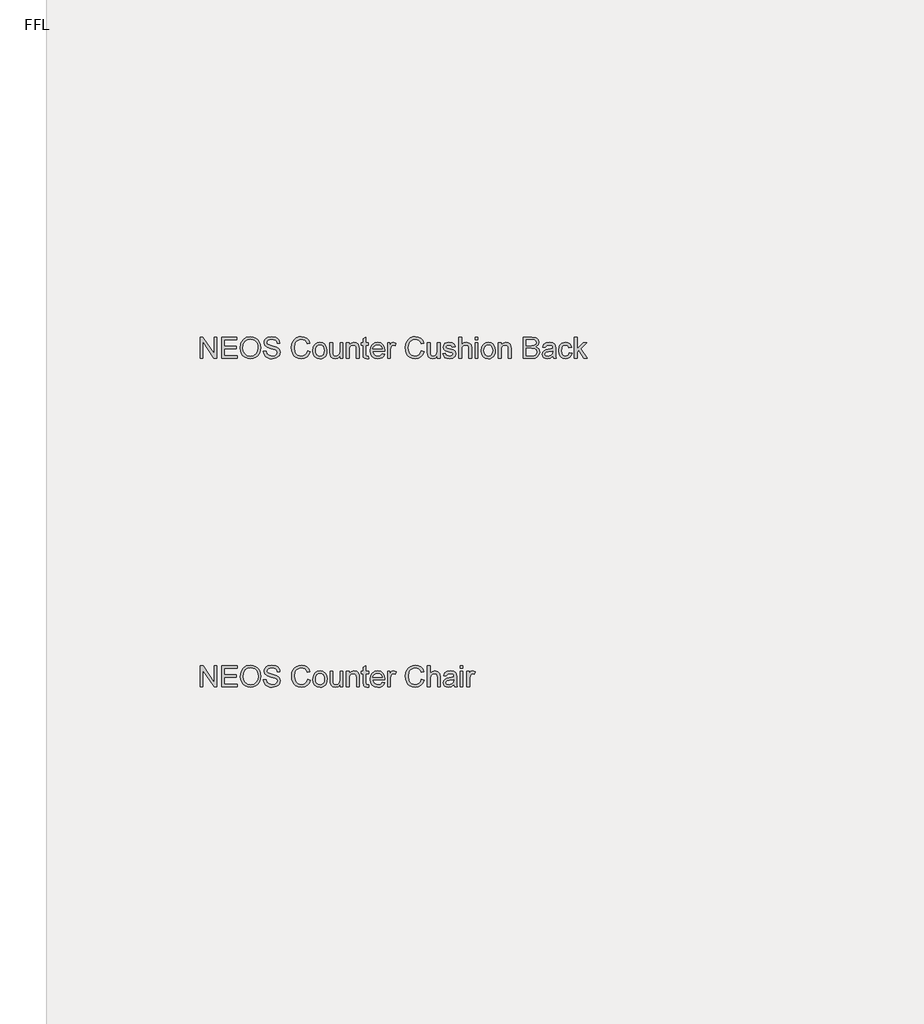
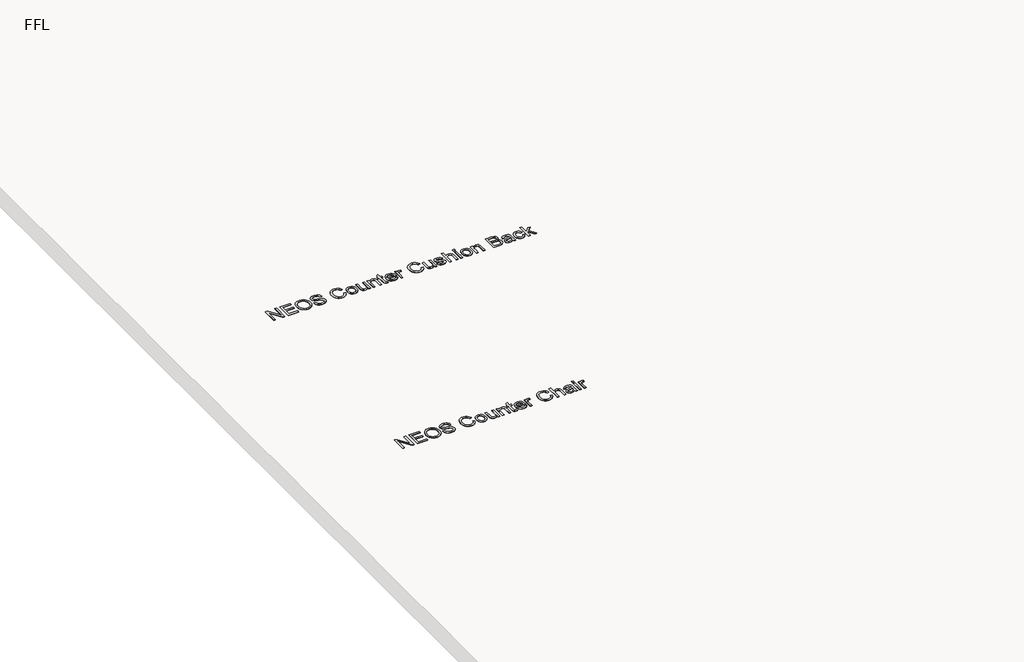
# One storey, part 2 of 5: 2 proxies.
"""IFC4 building model written with IfcOpenShell, lengths in millimetres."""

from ifc_helpers import new_model, si_unit, origin, origin_with_axes, place, context, project, spatial, polyline, outline, extrude, element, save

model = new_model("IFC4")

# Units and contexts
model_context = context("Model", 3, world=origin())
ifc_project = project(units=[si_unit("LENGTHUNIT", "METRE", prefix="MILLI")], contexts=[model_context])

# Site, building, storey
site = spatial("IfcSite", under=ifc_project)
building = spatial("IfcBuilding", under=site)
storey = spatial("IfcBuildingStorey", under=building, Name="FFL", Elevation=0.0)

# Proxies
placement = place(None, origin())
element("IfcBuildingElementProxy", 1, Name="150mm Arial", ObjectType="150mm Arial", at=placement, inside=storey, context=model_context, shape_type="SweptSolid", body=[
    extrude(outline(polyline([(-19206.6742905, 11224.947862), (-19206.6742905, 11372.6401697), (-19186.9146751, 11372.6401697), (-19109.7512136, 11255.6329582), (-19109.7512136, 11372.6401697), (-19091.2896751, 11372.6401697), (-19091.2896751, 11224.947862), (-19111.0492905, 11224.947862), (-19188.2127521, 11341.9911312), (-19188.2127521, 11224.947862), (-19206.6742905, 11224.947862)])), origin_with_axes(), (0.0, 0.0, 1.0), 5.0),
    extrude(outline(polyline([(-19058.9819828, 11224.947862), (-19058.9819828, 11372.6401697), (-18952.8281367, 11372.6401697), (-18952.8281367, 11354.1786312), (-19040.5204444, 11354.1786312), (-19040.5204444, 11310.3324774), (-18957.4435213, 11310.3324774), (-18957.4435213, 11291.8709389), (-19040.5204444, 11291.8709389), (-19040.5204444, 11243.4094005), (-18950.5204444, 11243.4094005), (-18950.5204444, 11224.947862), (-19058.9819828, 11224.947862)])), origin_with_axes(), (0.0, 0.0, 1.0), 5.0),
    extrude(outline(polyline([(-18929.7512136, 11296.8469005), (-18924.8293386, 11329.5061553), (-18910.0637136, 11354.2146889), (-18887.5186415, 11369.7645687), (-18859.2584251, 11374.947862), (-18839.8864299, 11372.5139678), (-18822.5156367, 11365.2122851), (-18808.0925598, 11353.556636), (-18797.5637136, 11338.0608428), (-18791.1274155, 11319.4731024), (-18788.9819828, 11298.541612), (-18791.2400958, 11277.3306745), (-18798.0144348, 11258.4815159), (-18808.9309011, 11242.9586793), (-18823.6153963, 11231.7267082), (-18840.8374516, 11224.9118043), (-18859.3665982, 11222.6401697), (-18879.0360694, 11225.1506865), (-18896.5060213, 11232.682237), (-18910.8930405, 11244.5542322), (-18921.3137136, 11260.0860832), (-18927.6418386, 11277.9571769), (-18929.7512136, 11296.8469005)]), holes=[polyline([(-18911.2896751, 11296.666612), (-18907.5982689, 11273.5626457), (-18896.5240501, 11255.9574774), (-18879.8789179, 11244.8156505), (-18859.4747713, 11241.1017082), (-18838.7731487, 11244.8517082), (-18822.1009732, 11256.1017082), (-18811.1078843, 11274.2477418), (-18807.4435213, 11298.6858428), (-18809.0120309, 11315.0289918), (-18813.7175598, 11329.1545928), (-18821.4384131, 11340.7065759), (-18832.0528963, 11349.3288716), (-18844.8578843, 11354.6969606), (-18859.1502521, 11356.4863235), (-18879.0090261, 11353.0383067), (-18895.8930405, 11342.6942562), (-18907.4405165, 11324.2913115), (-18911.2896751, 11296.666612)])]), origin_with_axes(), (0.0, 0.0, 1.0), 5.0),
    extrude(outline(polyline([(-18770.5204444, 11275.7170928), (-18752.0589059, 11275.7170928), (-18746.1093867, 11257.2375255), (-18731.5781367, 11245.5548332), (-18709.4387136, 11241.1017082), (-18690.1478482, 11244.4731024), (-18677.6899155, 11253.7399293), (-18673.5973674, 11266.1257466), (-18676.6622713, 11277.6461793), (-18689.2103482, 11286.0295928), (-18716.0913578, 11293.0788716), (-18745.0276559, 11302.1834389), (-18760.7307809, 11315.9214197), (-18765.9050598, 11334.2747851), (-18764.3049997, 11345.0875856), (-18759.5048194, 11355.1702178), (-18751.6307208, 11363.7158909), (-18740.8089059, 11369.9178139), (-18713.4411174, 11374.947862), (-18684.2343867, 11369.6834389), (-18673.0384732, 11363.1840399), (-18664.7632328, 11354.2146889), (-18659.525853, 11343.3342803), (-18657.4435213, 11331.1017082), (-18675.9050598, 11331.1017082), (-18679.2944828, 11342.1173332), (-18686.3617905, 11350.0680543), (-18697.4044588, 11354.8817562), (-18712.7199636, 11356.4863235), (-18728.3960453, 11354.8997851), (-18739.1502521, 11350.1401697), (-18745.370204, 11343.135963), (-18747.4435213, 11334.8156505), (-18745.9741703, 11327.7212995), (-18741.5661174, 11322.0151697), (-18711.4218867, 11311.7026697), (-18678.7536174, 11302.4358428), (-18668.2292785, 11295.7381264), (-18660.8870309, 11287.4719005), (-18655.135829, 11266.5944966), (-18656.7899756, 11255.2137875), (-18661.7524155, 11244.5091601), (-18669.8203242, 11235.2964197), (-18680.7908771, 11228.3913716), (-18708.7175598, 11222.6401697), (-18726.8049997, 11224.1906505), (-18741.6923194, 11228.8420928), (-18753.5507929, 11236.6125255), (-18762.5516944, 11247.5199774), (-18768.3299396, 11260.807237), (-18770.5204444, 11275.7170928)])), origin_with_axes(), (0.0, 0.0, 1.0), 5.0),
    extrude(outline(polyline([(-18465.9050598, 11277.447862), (-18447.4435213, 11272.6882466), (-18455.9621511, 11251.1753259), (-18469.3305405, 11235.4586793), (-18486.8906367, 11225.8447971), (-18507.9843867, 11222.6401697), (-18529.3981487, 11225.0650495), (-18546.4038578, 11232.3396889), (-18559.4387136, 11244.2116841), (-18568.9399155, 11260.4286312), (-18574.7406968, 11279.494136), (-18576.6742905, 11299.9118043), (-18574.4882929, 11321.447261), (-18567.9303001, 11340.0440159), (-18557.3428602, 11355.111624), (-18543.0685213, 11366.0596409), (-18526.1394348, 11372.7258067), (-18507.5877521, 11374.947862), (-18487.345865, 11372.072261), (-18470.6105886, 11363.4454582), (-18457.9047593, 11349.5993043), (-18449.7512136, 11331.0656505), (-18468.2127521, 11326.666612), (-18474.6129924, 11340.1296529), (-18483.3569828, 11349.3649293), (-18494.5528963, 11354.705975), (-18508.3089059, 11356.4863235), (-18524.1652761, 11354.5121649), (-18537.1911174, 11348.5896889), (-18547.0754323, 11339.3408909), (-18553.5072232, 11327.3877659), (-18558.2127521, 11299.947862), (-18552.6418386, 11268.1449774), (-18545.5204444, 11256.268475), (-18535.2980886, 11247.8264678), (-18523.0429804, 11242.7828981), (-18509.823329, 11241.1017082), (-18494.4131727, 11243.3913716), (-18481.5721271, 11250.260362), (-18471.877115, 11261.6365639), (-18465.9050598, 11277.447862)])), origin_with_axes(), (0.0, 0.0, 1.0), 5.0),
    extrude(outline(polyline([(-18428.9819828, 11279.1786312), (-18424.9885934, 11305.3294726), (-18413.0084251, 11323.7098812), (-18398.2067424, 11332.7152899), (-18380.4843867, 11335.7170928), (-18361.0898554, 11332.0617442), (-18345.5985694, 11321.0956985), (-18335.4438218, 11303.6843404), (-18332.0589059, 11280.6930543), (-18333.5553001, 11262.042213), (-18338.0444828, 11247.8444966), (-18345.3957448, 11237.2119846), (-18355.4783771, 11229.2567562), (-18367.4540381, 11224.2943163), (-18380.4843867, 11222.6401697), (-18400.1132929, 11226.2819966), (-18415.5865501, 11237.2074774), (-18425.6331247, 11254.9839197), (-18428.9819828, 11279.1786312)]), holes=[polyline([(-18410.5204444, 11279.2146889), (-18408.3840261, 11262.5064558), (-18401.9747713, 11250.6029101), (-18392.3293386, 11243.4770086), (-18380.4843867, 11241.1017082), (-18368.6935213, 11243.4905303), (-18359.0661174, 11250.6569966), (-18352.6568626, 11262.7182947), (-18350.5204444, 11279.791612), (-18352.6703843, 11296.0130663), (-18359.120204, 11307.7543524), (-18368.7611295, 11314.8802538), (-18380.4843867, 11317.2555543), (-18392.3293386, 11314.8892683), (-18401.9747713, 11307.7904101), (-18408.3840261, 11295.9139077), (-18410.5204444, 11279.2146889)])]), origin_with_axes(), (0.0, 0.0, 1.0), 5.0),
    extrude(outline(polyline([(-18242.0589059, 11224.947862), (-18242.0589059, 11243.5896889), (-18256.5180405, 11227.8775495), (-18275.3762136, 11222.6401697), (-18292.7379924, 11226.3180543), (-18304.7091463, 11235.5488235), (-18310.2079444, 11249.1425735), (-18311.2896751, 11266.3060351), (-18311.2896751, 11333.4094005), (-18292.8281367, 11333.4094005), (-18292.8281367, 11274.9959389), (-18291.7103482, 11256.1738235), (-18284.4086655, 11245.1221409), (-18270.6526559, 11241.1017082), (-18255.2379924, 11245.2122851), (-18245.0516944, 11256.4081985), (-18242.0589059, 11276.979112), (-18242.0589059, 11333.4094005), (-18223.5973674, 11333.4094005), (-18223.5973674, 11224.947862), (-18242.0589059, 11224.947862)])), origin_with_axes(), (0.0, 0.0, 1.0), 5.0),
    extrude(outline(polyline([(-18198.2127521, 11224.947862), (-18198.2127521, 11333.4094005), (-18179.7512136, 11333.4094005), (-18179.7512136, 11318.2651697), (-18165.6346271, 11331.354112), (-18146.3617905, 11335.7170928), (-18128.9278963, 11332.2014678), (-18117.0288578, 11322.9706985), (-18111.4940021, 11309.3949774), (-18110.5204444, 11291.5464197), (-18110.5204444, 11224.947862), (-18128.9819828, 11224.947862), (-18128.9819828, 11289.0584389), (-18131.1093867, 11305.3925735), (-18138.6274155, 11314.0283909), (-18151.3016944, 11317.2555543), (-18162.1144948, 11315.4436553), (-18171.3317424, 11310.0079582), (-18177.6463458, 11299.5061553), (-18179.7512136, 11282.4959389), (-18179.7512136, 11224.947862), (-18198.2127521, 11224.947862)])), origin_with_axes(), (0.0, 0.0, 1.0), 5.0),
    extrude(outline(polyline([(-18045.9050598, 11240.3444966), (-18043.5973674, 11224.4069966), (-18057.4074636, 11222.6401697), (-18072.8762136, 11225.7050735), (-18080.5925598, 11233.7459389), (-18082.8281367, 11254.6954582), (-18082.8281367, 11314.947862), (-18096.6742905, 11314.947862), (-18096.6742905, 11333.4094005), (-18082.8281367, 11333.4094005), (-18082.8281367, 11359.7675735), (-18064.3665982, 11370.6209389), (-18064.3665982, 11333.4094005), (-18045.9050598, 11333.4094005), (-18045.9050598, 11314.947862), (-18064.3665982, 11314.947862), (-18064.3665982, 11255.2363235), (-18063.3930405, 11245.7170928), (-18060.2379924, 11242.3456985), (-18053.9459251, 11241.1017082), (-18045.9050598, 11240.3444966)])), origin_with_axes(), (0.0, 0.0, 1.0), 5.0),
    extrude(outline(polyline([(-17951.5060213, 11257.2555543), (-17933.4050598, 11254.947862), (-17939.9269948, 11241.3090399), (-17950.3341463, 11231.1137274), (-17964.3921391, 11224.7585591), (-17981.8665982, 11222.6401697), (-18003.5282569, 11226.2955183), (-18020.1959251, 11237.2615639), (-18030.8239299, 11254.8261673), (-18034.3665982, 11278.2771889), (-18030.7878723, 11302.5169726), (-18020.0516944, 11320.6449774), (-18003.6093867, 11331.9490639), (-17982.9122713, 11335.7170928), (-17962.8596872, 11331.9580784), (-17946.8365501, 11320.6810351), (-17936.33024, 11302.589088), (-17932.8281367, 11278.385362), (-17932.9363098, 11273.4094005), (-18015.9050598, 11273.4094005), (-18012.7094468, 11259.5902899), (-18005.2860694, 11249.4310351), (-17994.5724275, 11243.1840399), (-17981.5060213, 11241.1017082), (-17963.4050598, 11244.9598812), (-17951.5060213, 11257.2555543)]), holes=[polyline([(-18015.9050598, 11291.8709389), (-17951.2896751, 11291.8709389), (-17953.7866703, 11301.6245447), (-17958.6815021, 11308.6017082), (-17969.4447232, 11315.0920928), (-17982.9843867, 11317.2555543), (-17995.4287977, 11315.5292923), (-18005.7187617, 11310.3505062), (-18012.8717064, 11302.2780904), (-18015.9050598, 11291.8709389)])]), origin_with_axes(), (0.0, 0.0, 1.0), 5.0),
    extrude(outline(polyline([(-17914.3665982, 11224.947862), (-17914.3665982, 11333.4094005), (-17898.2127521, 11333.4094005), (-17898.2127521, 11317.3637274), (-17886.7464059, 11332.1473812), (-17875.2079444, 11335.7170928), (-17856.6742905, 11330.0199774), (-17862.8401559, 11313.4694966), (-17875.8209251, 11317.2555543), (-17886.2596271, 11313.6137274), (-17892.9122713, 11303.5175735), (-17895.9050598, 11281.9550735), (-17895.9050598, 11224.947862), (-17914.3665982, 11224.947862)])), origin_with_axes(), (0.0, 0.0, 1.0), 5.0),
    extrude(outline(polyline([(-17681.2896751, 11277.447862), (-17662.8281367, 11272.6882466), (-17671.3467665, 11251.1753259), (-17684.7151559, 11235.4586793), (-17702.2752521, 11225.8447971), (-17723.3690021, 11222.6401697), (-17744.7827641, 11225.0650495), (-17761.7884732, 11232.3396889), (-17774.823329, 11244.2116841), (-17784.3245309, 11260.4286312), (-17790.1253122, 11279.494136), (-17792.0589059, 11299.9118043), (-17789.8729083, 11321.447261), (-17783.3149155, 11340.0440159), (-17772.7274756, 11355.111624), (-17758.4531367, 11366.0596409), (-17741.5240501, 11372.7258067), (-17722.9723674, 11374.947862), (-17702.7304804, 11372.072261), (-17685.995204, 11363.4454582), (-17673.2893747, 11349.5993043), (-17665.135829, 11331.0656505), (-17683.5973674, 11326.666612), (-17689.9976078, 11340.1296529), (-17698.7415982, 11349.3649293), (-17709.9375117, 11354.705975), (-17723.6935213, 11356.4863235), (-17739.5498915, 11354.5121649), (-17752.5757328, 11348.5896889), (-17762.4600477, 11339.3408909), (-17768.8918386, 11327.3877659), (-17773.5973674, 11299.947862), (-17768.026454, 11268.1449774), (-17760.9050598, 11256.268475), (-17750.682704, 11247.8264678), (-17738.4275958, 11242.7828981), (-17725.2079444, 11241.1017082), (-17709.7977881, 11243.3913716), (-17696.9567424, 11250.260362), (-17687.2617304, 11261.6365639), (-17681.2896751, 11277.447862)])), origin_with_axes(), (0.0, 0.0, 1.0), 5.0),
    extrude(outline(polyline([(-17639.7512136, 11224.947862), (-17639.7512136, 11372.6401697), (-17621.2896751, 11372.6401697), (-17621.2896751, 11318.3372851), (-17606.8936415, 11331.3721409), (-17589.1622713, 11335.7170928), (-17568.4290982, 11330.9755062), (-17555.8449636, 11317.8685351), (-17552.0589059, 11293.6017082), (-17552.0589059, 11224.947862), (-17570.5204444, 11224.947862), (-17570.5204444, 11291.6906505), (-17571.9897953, 11303.2471409), (-17576.3978482, 11311.1618043), (-17583.5012136, 11315.7321168), (-17593.0565021, 11317.2555543), (-17608.182704, 11313.1449774), (-17618.2788578, 11302.0031505), (-17621.2896751, 11282.5680543), (-17621.2896751, 11224.947862), (-17639.7512136, 11224.947862)])), origin_with_axes(), (0.0, 0.0, 1.0), 5.0),
    extrude(outline(polyline([(-17457.4435213, 11238.7940159), (-17475.3461655, 11226.2819966), (-17495.1238098, 11222.6401697), (-17510.5519948, 11224.8306745), (-17521.932704, 11231.4021889), (-17528.9504323, 11241.3811553), (-17531.2896751, 11253.7940159), (-17527.7560213, 11268.3973812), (-17518.4711655, 11278.9983428), (-17505.5444828, 11285.0560351), (-17489.5709251, 11287.8324774), (-17457.5516944, 11294.1786312), (-17457.4435213, 11298.2892082), (-17458.7145549, 11306.5283909), (-17462.5276559, 11311.9190159), (-17471.0553001, 11315.9214197), (-17482.9363098, 11317.2555543), (-17501.6141944, 11313.7038716), (-17510.5204444, 11301.1017082), (-17528.9819828, 11303.4094005), (-17520.995204, 11321.4382466), (-17504.9134732, 11332.0031505), (-17480.5565021, 11335.7170928), (-17458.182704, 11332.4358428), (-17445.5444828, 11324.1966601), (-17439.8834251, 11311.666612), (-17438.9819828, 11295.5127659), (-17438.9819828, 11272.5440159), (-17438.0444828, 11240.4706985), (-17434.3665982, 11224.947862), (-17452.8281367, 11224.947862), (-17457.4435213, 11238.7940159)]), holes=[polyline([(-17457.4435213, 11275.7170928), (-17487.2271751, 11270.0560351), (-17503.1105886, 11267.0632466), (-17510.3040982, 11262.1954582), (-17512.8281367, 11255.0920928), (-17507.3293386, 11245.104112), (-17491.1935213, 11241.1017082), (-17472.5156367, 11245.5187755), (-17460.4723674, 11256.2098812), (-17457.5516944, 11270.4887274), (-17457.4435213, 11275.7170928)])]), origin_with_axes(), (0.0, 0.0, 1.0), 5.0),
    extrude(outline(polyline([(-17413.5973674, 11224.947862), (-17413.5973674, 11333.4094005), (-17395.135829, 11333.4094005), (-17395.135829, 11224.947862), (-17413.5973674, 11224.947862)])), origin_with_axes(), (0.0, 0.0, 1.0), 5.0),
    extrude(outline(polyline([(-17413.5973674, 11354.1786312), (-17413.5973674, 11372.6401697), (-17395.135829, 11372.6401697), (-17395.135829, 11354.1786312), (-17413.5973674, 11354.1786312)])), origin_with_axes(), (0.0, 0.0, 1.0), 5.0),
    extrude(outline(polyline([(-17367.4435213, 11224.947862), (-17367.4435213, 11333.4094005), (-17351.2896751, 11333.4094005), (-17351.2896751, 11317.3637274), (-17339.823329, 11332.1473812), (-17328.2848674, 11335.7170928), (-17309.7512136, 11330.0199774), (-17315.917079, 11313.4694966), (-17328.8978482, 11317.2555543), (-17339.3365501, 11313.6137274), (-17345.9891944, 11303.5175735), (-17348.9819828, 11281.9550735), (-17348.9819828, 11224.947862), (-17367.4435213, 11224.947862)])), origin_with_axes(), (0.0, 0.0, 1.0), 5.0),
])
element("IfcBuildingElementProxy", 2, Name="150mm Arial", ObjectType="150mm Arial", at=placement, inside=storey, context=model_context, shape_type="SweptSolid", body=[
    extrude(outline(polyline([(-19207.3366671, 13489.748844), (-19207.3366671, 13637.4411517), (-19187.5770517, 13637.4411517), (-19110.4135902, 13520.4339401), (-19110.4135902, 13637.4411517), (-19091.9520517, 13637.4411517), (-19091.9520517, 13489.748844), (-19111.7116671, 13489.748844), (-19188.8751286, 13606.7921132), (-19188.8751286, 13489.748844), (-19207.3366671, 13489.748844)])), origin_with_axes(), (0.0, 0.0, 1.0), 5.0),
    extrude(outline(polyline([(-19059.6443594, 13489.748844), (-19059.6443594, 13637.4411517), (-18953.4905133, 13637.4411517), (-18953.4905133, 13618.9796132), (-19041.1828209, 13618.9796132), (-19041.1828209, 13575.1334594), (-18958.1058979, 13575.1334594), (-18958.1058979, 13556.6719209), (-19041.1828209, 13556.6719209), (-19041.1828209, 13508.2103824), (-18951.1828209, 13508.2103824), (-18951.1828209, 13489.748844), (-19059.6443594, 13489.748844)])), origin_with_axes(), (0.0, 0.0, 1.0), 5.0),
    extrude(outline(polyline([(-18930.4135902, 13561.6478824), (-18925.4917152, 13594.3071372), (-18910.7260902, 13619.0156709), (-18888.1810181, 13634.5655507), (-18859.9208017, 13639.748844), (-18840.5488065, 13637.3149497), (-18823.1780133, 13630.0132671), (-18808.7549363, 13618.357618), (-18798.2260902, 13602.8618247), (-18791.7897921, 13584.2740844), (-18789.6443594, 13563.342594), (-18791.9024724, 13542.1316565), (-18798.6768113, 13523.2824978), (-18809.5932777, 13507.7596613), (-18824.2777729, 13496.5276901), (-18841.4998282, 13489.7127863), (-18860.0289748, 13487.4411517), (-18879.6984459, 13489.9516685), (-18897.1683979, 13497.483219), (-18911.5554171, 13509.3552142), (-18921.9760902, 13524.8870651), (-18928.3042152, 13542.7581589), (-18930.4135902, 13561.6478824)]), holes=[polyline([(-18911.9520517, 13561.467594), (-18908.2606455, 13538.3636276), (-18897.1864267, 13520.7584594), (-18880.5412945, 13509.6166324), (-18860.1371479, 13505.9026901), (-18839.4355253, 13509.6526901), (-18822.7633498, 13520.9026901), (-18811.7702608, 13539.0487238), (-18808.1058979, 13563.4868247), (-18809.6744075, 13579.8299738), (-18814.3799363, 13593.9555747), (-18822.1007897, 13605.5075579), (-18832.7152729, 13614.1298536), (-18845.5202608, 13619.4979425), (-18859.8126286, 13621.2873055), (-18879.6714027, 13617.8392887), (-18896.5554171, 13607.4952382), (-18908.1028931, 13589.0922935), (-18911.9520517, 13561.467594)])]), origin_with_axes(), (0.0, 0.0, 1.0), 5.0),
    extrude(outline(polyline([(-18771.1828209, 13540.5180747), (-18752.7212825, 13540.5180747), (-18746.7717633, 13522.0385074), (-18732.2405133, 13510.3558151), (-18710.1010902, 13505.9026901), (-18690.8102248, 13509.2740844), (-18678.3522921, 13518.5409113), (-18674.259744, 13530.9267286), (-18677.3246479, 13542.4471613), (-18689.8727248, 13550.8305747), (-18716.7537344, 13557.8798536), (-18745.6900325, 13566.9844209), (-18761.3931575, 13580.7224017), (-18766.5674363, 13599.0757671), (-18764.9673762, 13609.8885675), (-18760.1671959, 13619.9711997), (-18752.2930974, 13628.5168728), (-18741.4712825, 13634.7187959), (-18714.103494, 13639.748844), (-18684.8967633, 13634.4844209), (-18673.7008498, 13627.9850219), (-18665.4256094, 13619.0156709), (-18660.1882296, 13608.1352622), (-18658.1058979, 13595.9026901), (-18676.5674363, 13595.9026901), (-18679.9568594, 13606.9183151), (-18687.0241671, 13614.8690363), (-18698.0668354, 13619.6827382), (-18713.3823402, 13621.2873055), (-18729.0584219, 13619.7007671), (-18739.8126286, 13614.9411517), (-18746.0325806, 13607.9369449), (-18748.1058979, 13599.6166324), (-18746.6365469, 13592.5222815), (-18742.228494, 13586.8161517), (-18712.0842633, 13576.5036517), (-18679.415994, 13567.2368247), (-18668.8916551, 13560.5391084), (-18661.5494075, 13552.2728824), (-18655.7982056, 13531.3954786), (-18657.4523522, 13520.0147695), (-18662.4147921, 13509.3101421), (-18670.4827008, 13500.0974017), (-18681.4532536, 13493.1923536), (-18709.3799363, 13487.4411517), (-18727.4673762, 13488.9916324), (-18742.3546959, 13493.6430747), (-18754.2131695, 13501.4135074), (-18763.2140709, 13512.3209594), (-18768.9923161, 13525.608219), (-18771.1828209, 13540.5180747)])), origin_with_axes(), (0.0, 0.0, 1.0), 5.0),
    extrude(outline(polyline([(-18466.5674363, 13542.248844), (-18448.1058979, 13537.4892286), (-18456.6245277, 13515.9763079), (-18469.9929171, 13500.2596613), (-18487.5530133, 13490.6457791), (-18508.6467633, 13487.4411517), (-18530.0605253, 13489.8660315), (-18547.0662344, 13497.1406709), (-18560.1010902, 13509.0126661), (-18569.6022921, 13525.2296132), (-18575.4030733, 13544.295118), (-18577.3366671, 13564.7127863), (-18575.1506695, 13586.248243), (-18568.5926767, 13604.8449978), (-18558.0052368, 13619.912606), (-18543.7308979, 13630.8606228), (-18526.8018113, 13637.5267887), (-18508.2501286, 13639.748844), (-18488.0082416, 13636.873243), (-18471.2729652, 13628.2464401), (-18458.5671358, 13614.4002863), (-18450.4135902, 13595.8666324), (-18468.8751286, 13591.467594), (-18475.275369, 13604.9306348), (-18484.0193594, 13614.1659113), (-18495.2152729, 13619.506957), (-18508.9712825, 13621.2873055), (-18524.8276527, 13619.3131469), (-18537.853494, 13613.3906709), (-18547.7378089, 13604.1418728), (-18554.1695998, 13592.1887478), (-18558.8751286, 13564.748844), (-18553.3042152, 13532.9459594), (-18546.1828209, 13521.069457), (-18535.9604652, 13512.6274497), (-18523.705357, 13507.58388), (-18510.4857056, 13505.9026901), (-18495.0755493, 13508.1923536), (-18482.2345036, 13515.061344), (-18472.5394916, 13526.4375459), (-18466.5674363, 13542.248844)])), origin_with_axes(), (0.0, 0.0, 1.0), 5.0),
    extrude(outline(polyline([(-18429.6443594, 13543.9796132), (-18425.65097, 13570.1304546), (-18413.6708017, 13588.5108632), (-18398.869119, 13597.5162719), (-18381.1467633, 13600.5180747), (-18361.752232, 13596.8627262), (-18346.2609459, 13585.8966805), (-18336.1061983, 13568.4853223), (-18332.7212825, 13545.4940363), (-18334.2176767, 13526.8431949), (-18338.7068594, 13512.6454786), (-18346.0581214, 13502.0129666), (-18356.1407536, 13494.0577382), (-18368.1164147, 13489.0952983), (-18381.1467633, 13487.4411517), (-18400.7756695, 13491.0829786), (-18416.2489267, 13502.0084594), (-18426.2955012, 13519.7849017), (-18429.6443594, 13543.9796132)]), holes=[polyline([(-18411.1828209, 13544.0156709), (-18409.0464027, 13527.3074377), (-18402.6371479, 13515.4038921), (-18392.9917152, 13508.2779906), (-18381.1467633, 13505.9026901), (-18369.3558979, 13508.2915122), (-18359.728494, 13515.4579786), (-18353.3192392, 13527.5192767), (-18351.1828209, 13544.592594), (-18353.3327608, 13560.8140483), (-18359.7825806, 13572.5553344), (-18369.423506, 13579.6812358), (-18381.1467633, 13582.0565363), (-18392.9917152, 13579.6902502), (-18402.6371479, 13572.5913921), (-18409.0464027, 13560.7148896), (-18411.1828209, 13544.0156709)])]), origin_with_axes(), (0.0, 0.0, 1.0), 5.0),
    extrude(outline(polyline([(-18242.7212825, 13489.748844), (-18242.7212825, 13508.3906709), (-18257.1804171, 13492.6785315), (-18276.0385902, 13487.4411517), (-18293.400369, 13491.1190363), (-18305.3715229, 13500.3498055), (-18310.8703209, 13513.9435555), (-18311.9520517, 13531.1070171), (-18311.9520517, 13598.2103824), (-18293.4905133, 13598.2103824), (-18293.4905133, 13539.7969209), (-18292.3727248, 13520.9748055), (-18285.0710421, 13509.9231228), (-18271.3150325, 13505.9026901), (-18255.900369, 13510.0132671), (-18245.7140709, 13521.2091805), (-18242.7212825, 13541.780094), (-18242.7212825, 13598.2103824), (-18224.259744, 13598.2103824), (-18224.259744, 13489.748844), (-18242.7212825, 13489.748844)])), origin_with_axes(), (0.0, 0.0, 1.0), 5.0),
    extrude(outline(polyline([(-18198.8751286, 13489.748844), (-18198.8751286, 13598.2103824), (-18180.4135902, 13598.2103824), (-18180.4135902, 13583.0661517), (-18166.2970036, 13596.155094), (-18147.0241671, 13600.5180747), (-18129.5902729, 13597.0024497), (-18117.6912344, 13587.7716805), (-18112.1563786, 13574.1959594), (-18111.1828209, 13556.3474017), (-18111.1828209, 13489.748844), (-18129.6443594, 13489.748844), (-18129.6443594, 13553.8594209), (-18131.7717633, 13570.1935555), (-18139.2897921, 13578.8293728), (-18151.9640709, 13582.0565363), (-18162.7768714, 13580.2446372), (-18171.994119, 13574.8089401), (-18178.3087224, 13564.3071372), (-18180.4135902, 13547.2969209), (-18180.4135902, 13489.748844), (-18198.8751286, 13489.748844)])), origin_with_axes(), (0.0, 0.0, 1.0), 5.0),
    extrude(outline(polyline([(-18046.5674363, 13505.1454786), (-18044.259744, 13489.2079786), (-18058.0698402, 13487.4411517), (-18073.5385902, 13490.5060555), (-18081.2549363, 13498.5469209), (-18083.4905133, 13519.4964401), (-18083.4905133, 13579.748844), (-18097.3366671, 13579.748844), (-18097.3366671, 13598.2103824), (-18083.4905133, 13598.2103824), (-18083.4905133, 13624.5685555), (-18065.0289748, 13635.4219209), (-18065.0289748, 13598.2103824), (-18046.5674363, 13598.2103824), (-18046.5674363, 13579.748844), (-18065.0289748, 13579.748844), (-18065.0289748, 13520.0373055), (-18064.0554171, 13510.5180747), (-18060.900369, 13507.1466805), (-18054.6083017, 13505.9026901), (-18046.5674363, 13505.1454786)])), origin_with_axes(), (0.0, 0.0, 1.0), 5.0),
    extrude(outline(polyline([(-17952.1683979, 13522.0565363), (-17934.0674363, 13519.748844), (-17940.5893714, 13506.1100219), (-17950.9965229, 13495.9147094), (-17965.0545157, 13489.5595411), (-17982.5289748, 13487.4411517), (-18004.1906334, 13491.0965002), (-18020.8583017, 13502.0625459), (-18031.4863065, 13519.6271493), (-18035.0289748, 13543.0781709), (-18031.4502488, 13567.3179546), (-18020.7140709, 13585.4459594), (-18004.2717633, 13596.7500459), (-17983.5746479, 13600.5180747), (-17963.5220637, 13596.7590603), (-17947.4989267, 13585.4820171), (-17936.9926166, 13567.3900699), (-17933.4905133, 13543.186344), (-17933.5986863, 13538.2103824), (-18016.5674363, 13538.2103824), (-18013.3718233, 13524.3912719), (-18005.9484459, 13514.2320171), (-17995.2348041, 13507.9850219), (-17982.1683979, 13505.9026901), (-17964.0674363, 13509.7608632), (-17952.1683979, 13522.0565363)]), holes=[polyline([(-18016.5674363, 13556.6719209), (-17951.9520517, 13556.6719209), (-17954.4490469, 13566.4255267), (-17959.3438786, 13573.4026901), (-17970.1070998, 13579.8930747), (-17983.6467633, 13582.0565363), (-17996.0911743, 13580.3302743), (-18006.3811383, 13575.1514882), (-18013.534083, 13567.0790723), (-18016.5674363, 13556.6719209)])]), origin_with_axes(), (0.0, 0.0, 1.0), 5.0),
    extrude(outline(polyline([(-17915.0289748, 13489.748844), (-17915.0289748, 13598.2103824), (-17898.8751286, 13598.2103824), (-17898.8751286, 13582.1647094), (-17887.4087825, 13596.9483632), (-17875.8703209, 13600.5180747), (-17857.3366671, 13594.8209594), (-17863.5025325, 13578.2704786), (-17876.4833017, 13582.0565363), (-17886.9220036, 13578.4147094), (-17893.5746479, 13568.3185555), (-17896.5674363, 13546.7560555), (-17896.5674363, 13489.748844), (-17915.0289748, 13489.748844)])), origin_with_axes(), (0.0, 0.0, 1.0), 5.0),
    extrude(outline(polyline([(-17681.9520517, 13542.248844), (-17663.4905133, 13537.4892286), (-17672.0091431, 13515.9763079), (-17685.3775325, 13500.2596613), (-17702.9376286, 13490.6457791), (-17724.0313786, 13487.4411517), (-17745.4451407, 13489.8660315), (-17762.4508498, 13497.1406709), (-17775.4857056, 13509.0126661), (-17784.9869075, 13525.2296132), (-17790.7876887, 13544.295118), (-17792.7212825, 13564.7127863), (-17790.5352849, 13586.248243), (-17783.9772921, 13604.8449978), (-17773.3898522, 13619.912606), (-17759.1155133, 13630.8606228), (-17742.1864267, 13637.5267887), (-17723.634744, 13639.748844), (-17703.392857, 13636.873243), (-17686.6575806, 13628.2464401), (-17673.9517512, 13614.4002863), (-17665.7982056, 13595.8666324), (-17684.259744, 13591.467594), (-17690.6599844, 13604.9306348), (-17699.4039748, 13614.1659113), (-17710.5998883, 13619.506957), (-17724.3558979, 13621.2873055), (-17740.2122681, 13619.3131469), (-17753.2381094, 13613.3906709), (-17763.1224243, 13604.1418728), (-17769.5542152, 13592.1887478), (-17774.259744, 13564.748844), (-17768.6888306, 13532.9459594), (-17761.5674363, 13521.069457), (-17751.3450806, 13512.6274497), (-17739.0899724, 13507.58388), (-17725.8703209, 13505.9026901), (-17710.4601647, 13508.1923536), (-17697.619119, 13515.061344), (-17687.924107, 13526.4375459), (-17681.9520517, 13542.248844)])), origin_with_axes(), (0.0, 0.0, 1.0), 5.0),
    extrude(outline(polyline([(-17571.1828209, 13489.748844), (-17571.1828209, 13508.3906709), (-17585.6419556, 13492.6785315), (-17604.5001286, 13487.4411517), (-17621.8619075, 13491.1190363), (-17633.8330613, 13500.3498055), (-17639.3318594, 13513.9435555), (-17640.4135902, 13531.1070171), (-17640.4135902, 13598.2103824), (-17621.9520517, 13598.2103824), (-17621.9520517, 13539.7969209), (-17620.8342633, 13520.9748055), (-17613.5325806, 13509.9231228), (-17599.7765709, 13505.9026901), (-17584.3619075, 13510.0132671), (-17574.1756094, 13521.2091805), (-17571.1828209, 13541.780094), (-17571.1828209, 13598.2103824), (-17552.7212825, 13598.2103824), (-17552.7212825, 13489.748844), (-17571.1828209, 13489.748844)])), origin_with_axes(), (0.0, 0.0, 1.0), 5.0),
    extrude(outline(polyline([(-17534.259744, 13522.0565363), (-17515.7982056, 13524.3642286), (-17512.8865469, 13516.467594), (-17507.2525325, 13510.6623055), (-17487.6732056, 13505.9026901), (-17468.8510902, 13510.2656709), (-17462.7212825, 13520.5060555), (-17468.8871479, 13528.7993247), (-17487.8895517, 13534.0637478), (-17515.6900325, 13543.0961997), (-17527.8234459, 13553.6430747), (-17531.9520517, 13568.5349017), (-17528.634744, 13582.2909113), (-17519.5842633, 13592.8017286), (-17507.8474844, 13598.264469), (-17491.9640709, 13600.5180747), (-17469.5001286, 13596.8942767), (-17455.2212825, 13587.0865844), (-17448.8751286, 13570.5180747), (-17467.3366671, 13568.2103824), (-17474.2777729, 13578.3966805), (-17490.5217633, 13582.0565363), (-17508.1900325, 13578.5589401), (-17513.4905133, 13570.4099017), (-17511.290994, 13565.0373055), (-17504.4039748, 13560.9627863), (-17488.5025325, 13557.0324978), (-17461.4051767, 13548.342594), (-17448.8210421, 13538.498844), (-17444.259744, 13522.4531709), (-17449.6143113, 13504.7849017), (-17465.0650325, 13491.9663921), (-17487.9256094, 13487.4411517), (-17506.5403931, 13489.6226421), (-17520.1251286, 13496.1671132), (-17529.1936383, 13507.0024497), (-17534.259744, 13522.0565363)])), origin_with_axes(), (0.0, 0.0, 1.0), 5.0),
    extrude(outline(polyline([(-17423.4905133, 13489.748844), (-17423.4905133, 13637.4411517), (-17405.0289748, 13637.4411517), (-17405.0289748, 13583.1382671), (-17390.6329411, 13596.1731228), (-17372.9015709, 13600.5180747), (-17352.1683979, 13595.7764882), (-17339.5842633, 13582.6695171), (-17335.7982056, 13558.4026901), (-17335.7982056, 13489.748844), (-17354.259744, 13489.748844), (-17354.259744, 13556.4916324), (-17355.729095, 13568.0481228), (-17360.1371479, 13575.9627863), (-17367.2405133, 13580.5330988), (-17376.7958017, 13582.0565363), (-17391.9220036, 13577.9459594), (-17402.0181575, 13566.8041324), (-17405.0289748, 13547.3690363), (-17405.0289748, 13489.748844), (-17423.4905133, 13489.748844)])), origin_with_axes(), (0.0, 0.0, 1.0), 5.0),
    extrude(outline(polyline([(-17310.4135902, 13489.748844), (-17310.4135902, 13598.2103824), (-17291.9520517, 13598.2103824), (-17291.9520517, 13489.748844), (-17310.4135902, 13489.748844)])), origin_with_axes(), (0.0, 0.0, 1.0), 5.0),
    extrude(outline(polyline([(-17310.4135902, 13618.9796132), (-17310.4135902, 13637.4411517), (-17291.9520517, 13637.4411517), (-17291.9520517, 13618.9796132), (-17310.4135902, 13618.9796132)])), origin_with_axes(), (0.0, 0.0, 1.0), 5.0),
    extrude(outline(polyline([(-17268.8751286, 13543.9796132), (-17264.8817392, 13570.1304546), (-17252.9015709, 13588.5108632), (-17238.0998883, 13597.5162719), (-17220.3775325, 13600.5180747), (-17200.9830012, 13596.8627262), (-17185.4917152, 13585.8966805), (-17175.3369676, 13568.4853223), (-17171.9520517, 13545.4940363), (-17173.4484459, 13526.8431949), (-17177.9376286, 13512.6454786), (-17185.2888907, 13502.0129666), (-17195.3715229, 13494.0577382), (-17207.3471839, 13489.0952983), (-17220.3775325, 13487.4411517), (-17240.0064387, 13491.0829786), (-17255.4796959, 13502.0084594), (-17265.5262705, 13519.7849017), (-17268.8751286, 13543.9796132)]), holes=[polyline([(-17250.4135902, 13544.0156709), (-17248.2771719, 13527.3074377), (-17241.8679171, 13515.4038921), (-17232.2224844, 13508.2779906), (-17220.3775325, 13505.9026901), (-17208.5866671, 13508.2915122), (-17198.9592633, 13515.4579786), (-17192.5500084, 13527.5192767), (-17190.4135902, 13544.592594), (-17192.5635301, 13560.8140483), (-17199.0133498, 13572.5553344), (-17208.6542753, 13579.6812358), (-17220.3775325, 13582.0565363), (-17232.2224844, 13579.6902502), (-17241.8679171, 13572.5913921), (-17248.2771719, 13560.7148896), (-17250.4135902, 13544.0156709)])]), origin_with_axes(), (0.0, 0.0, 1.0), 5.0),
    extrude(outline(polyline([(-17151.1828209, 13489.748844), (-17151.1828209, 13598.2103824), (-17132.7212825, 13598.2103824), (-17132.7212825, 13583.0661517), (-17118.6046959, 13596.155094), (-17099.3318594, 13600.5180747), (-17081.8979652, 13597.0024497), (-17069.9989267, 13587.7716805), (-17064.4640709, 13574.1959594), (-17063.4905133, 13556.3474017), (-17063.4905133, 13489.748844), (-17081.9520517, 13489.748844), (-17081.9520517, 13553.8594209), (-17084.0794556, 13570.1935555), (-17091.5974844, 13578.8293728), (-17104.2717633, 13582.0565363), (-17115.0845637, 13580.2446372), (-17124.3018113, 13574.8089401), (-17130.6164147, 13564.3071372), (-17132.7212825, 13547.2969209), (-17132.7212825, 13489.748844), (-17151.1828209, 13489.748844)])), origin_with_axes(), (0.0, 0.0, 1.0), 5.0),
    extrude(outline(polyline([(-16978.1058979, 13489.748844), (-16978.1058979, 13637.4411517), (-16921.7477248, 13637.4411517), (-16894.1455613, 13633.0961997), (-16884.86972, 13627.58388), (-16877.8474844, 13619.7368247), (-16871.9520517, 13600.842594), (-16876.9099844, 13583.5889882), (-16891.8919556, 13570.5180747), (-16881.4307176, 13565.0553344), (-16873.7008498, 13556.7440363), (-16868.9277128, 13546.1340603), (-16867.3366671, 13533.7752863), (-16871.681619, 13513.9255267), (-16882.4448402, 13499.7909113), (-16898.5085421, 13492.2909113), (-16922.1804171, 13489.748844), (-16978.1058979, 13489.748844)]), holes=[polyline([(-16959.6443594, 13577.4411517), (-16925.9304171, 13577.4411517), (-16906.2429171, 13579.0276901), (-16894.3979652, 13585.8606228), (-16890.4135902, 13597.8858632), (-16894.1275325, 13609.9291324), (-16904.7645517, 13617.0505267), (-16928.4905133, 13618.9796132), (-16959.6443594, 13618.9796132), (-16959.6443594, 13577.4411517)]), polyline([(-16959.6443594, 13508.2103824), (-16921.7837825, 13508.2103824), (-16908.0818594, 13508.9315363), (-16896.4893113, 13512.951969), (-16888.8090229, 13521.155094), (-16885.7982056, 13533.5949978), (-16889.3318594, 13547.9459594), (-16900.7801767, 13556.5096613), (-16923.5866671, 13558.9796132), (-16959.6443594, 13558.9796132), (-16959.6443594, 13508.2103824)])]), origin_with_axes(), (0.0, 0.0, 1.0), 5.0),
    extrude(outline(polyline([(-16775.0289748, 13503.5949978), (-16792.931619, 13491.0829786), (-16812.7092633, 13487.4411517), (-16828.1374483, 13489.6316565), (-16839.5181575, 13496.2031709), (-16846.5358858, 13506.1821372), (-16848.8751286, 13518.5949978), (-16845.3414748, 13533.1983632), (-16836.056619, 13543.7993247), (-16823.1299363, 13549.8570171), (-16807.1563786, 13552.6334594), (-16775.1371479, 13558.9796132), (-16775.0289748, 13563.0901901), (-16776.3000084, 13571.3293728), (-16780.1131094, 13576.7199978), (-16788.6407536, 13580.7224017), (-16800.5217633, 13582.0565363), (-16819.1996479, 13578.5048536), (-16828.1058979, 13565.9026901), (-16846.5674363, 13568.2103824), (-16838.5806575, 13586.2392286), (-16822.4989267, 13596.8041324), (-16798.1419556, 13600.5180747), (-16775.7681575, 13597.2368247), (-16763.1299363, 13588.9976421), (-16757.4688786, 13576.467594), (-16756.5674363, 13560.3137478), (-16756.5674363, 13537.3449978), (-16755.6299363, 13505.2716805), (-16751.9520517, 13489.748844), (-16770.4135902, 13489.748844), (-16775.0289748, 13503.5949978)]), holes=[polyline([(-16775.0289748, 13540.5180747), (-16804.8126286, 13534.8570171), (-16820.6960421, 13531.8642286), (-16827.8895517, 13526.9964401), (-16830.4135902, 13519.8930747), (-16824.9147921, 13509.905094), (-16808.7789748, 13505.9026901), (-16790.1010902, 13510.3197574), (-16778.0578209, 13521.0108632), (-16775.1371479, 13535.2897094), (-16775.0289748, 13540.5180747)])]), origin_with_axes(), (0.0, 0.0, 1.0), 5.0),
    extrude(outline(polyline([(-16661.9520517, 13528.9796132), (-16643.4905133, 13526.6719209), (-16648.6377488, 13510.2521493), (-16658.3102248, 13497.8437959), (-16671.5974844, 13490.0418127), (-16687.5890709, 13487.4411517), (-16707.2269916, 13491.069457), (-16722.5830613, 13501.9543728), (-16732.4944195, 13519.6181348), (-16735.7982056, 13543.5829786), (-16730.1551767, 13574.2500459), (-16723.0337825, 13585.7479425), (-16712.9556575, 13593.9555747), (-16700.8988666, 13598.8774497), (-16687.8414748, 13600.5180747), (-16672.2420157, 13598.264469), (-16659.7705613, 13591.5036517), (-16650.8237464, 13580.5961997), (-16645.7982056, 13565.9026901), (-16664.259744, 13563.5949978), (-16672.8234459, 13577.4231228), (-16687.697244, 13582.0565363), (-16699.627833, 13579.7758872), (-16709.0974844, 13572.9339401), (-16715.2768714, 13561.1611036), (-16717.3366671, 13544.0877863), (-16715.3219435, 13526.7846012), (-16709.2777729, 13514.9711997), (-16699.9793955, 13508.1698175), (-16688.2020517, 13505.9026901), (-16678.642256, 13507.3179546), (-16670.8042152, 13511.5637478), (-16665.1025926, 13518.748243), (-16661.9520517, 13528.9796132)])), origin_with_axes(), (0.0, 0.0, 1.0), 5.0),
    extrude(outline(polyline([(-16627.3366671, 13489.748844), (-16627.3366671, 13637.4411517), (-16608.8751286, 13637.4411517), (-16608.8751286, 13558.0781709), (-16567.4808979, 13598.2103824), (-16541.9520517, 13598.2103824), (-16583.8510902, 13557.5733632), (-16539.6443594, 13489.748844), (-16561.2068594, 13489.748844), (-16597.0842633, 13544.7368247), (-16608.8751286, 13533.3065363), (-16608.8751286, 13489.748844), (-16627.3366671, 13489.748844)])), origin_with_axes(), (0.0, 0.0, 1.0), 5.0),
])

save(model, "model.ifc")
